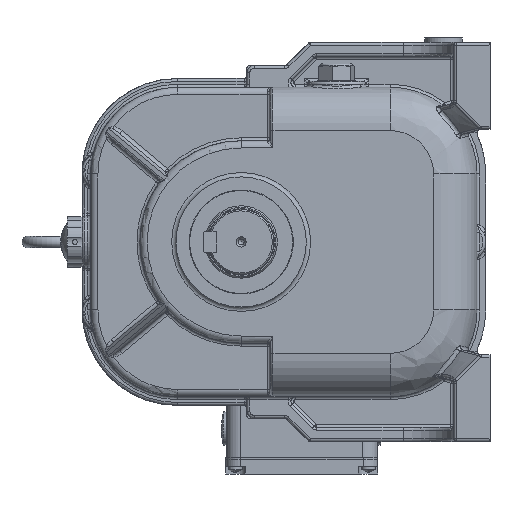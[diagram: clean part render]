
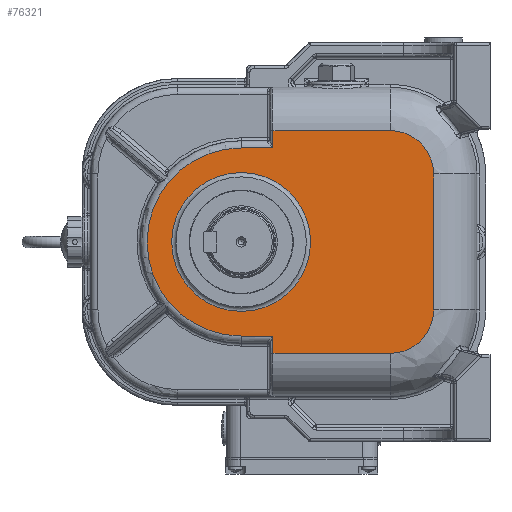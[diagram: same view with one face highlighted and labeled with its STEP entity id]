
A CAD part, left-side view. The second image highlights one B-rep face of the part: STEP entity #76321.
In plain terms, the highlighted planar face has unit normal (-1, 0, 0).
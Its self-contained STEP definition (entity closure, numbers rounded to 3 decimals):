
#4684=FACE_BOUND('',#15301,.T.);
#6238=PLANE('',#84442);
#10637=FACE_OUTER_BOUND('',#15300,.T.);
#15300=EDGE_LOOP('',(#69577,#69578,#69579,#69580,#69581,#69582,#69583,#69584,
#69585,#69586));
#15301=EDGE_LOOP('',(#69587));
#19828=CIRCLE('',#84068,30.);
#19842=CIRCLE('',#84089,30.);
#20044=CIRCLE('',#84443,65.);
#20045=CIRCLE('',#84444,48.);
#24597=LINE('',#185436,#29188);
#24660=LINE('',#186912,#29251);
#24661=LINE('',#186917,#29252);
#24662=LINE('',#186920,#29253);
#24663=LINE('',#186922,#29254);
#24664=LINE('',#186923,#29255);
#24665=LINE('',#186924,#29256);
#29188=VECTOR('',#104639,10.);
#29251=VECTOR('',#105040,10.);
#29252=VECTOR('',#105047,10.);
#29253=VECTOR('',#105050,10.);
#29254=VECTOR('',#105051,10.);
#29255=VECTOR('',#105052,10.);
#29256=VECTOR('',#105053,10.);
#35902=VERTEX_POINT('',#184275);
#35903=VERTEX_POINT('',#184277);
#35916=VERTEX_POINT('',#184519);
#35917=VERTEX_POINT('',#184521);
#36022=VERTEX_POINT('',#185434);
#36063=VERTEX_POINT('',#185818);
#36115=VERTEX_POINT('',#186497);
#36147=VERTEX_POINT('',#186916);
#36148=VERTEX_POINT('',#186918);
#36149=VERTEX_POINT('',#186921);
#36150=VERTEX_POINT('',#186925);
#46912=EDGE_CURVE('',#35902,#35903,#19828,.T.);
#46940=EDGE_CURVE('',#35916,#35917,#19842,.T.);
#47144=EDGE_CURVE('',#36022,#35902,#24597,.T.);
#47366=EDGE_CURVE('',#36115,#36022,#24660,.T.);
#47368=EDGE_CURVE('',#36115,#36147,#24661,.T.);
#47369=EDGE_CURVE('',#36148,#36147,#20044,.T.);
#47370=EDGE_CURVE('',#36148,#36063,#24662,.T.);
#47371=EDGE_CURVE('',#36149,#36063,#24663,.T.);
#47372=EDGE_CURVE('',#35917,#36149,#24664,.T.);
#47373=EDGE_CURVE('',#35903,#35916,#24665,.T.);
#47374=EDGE_CURVE('',#36150,#36150,#20045,.T.);
#69577=ORIENTED_EDGE('',*,*,#47366,.F.);
#69578=ORIENTED_EDGE('',*,*,#47368,.T.);
#69579=ORIENTED_EDGE('',*,*,#47369,.F.);
#69580=ORIENTED_EDGE('',*,*,#47370,.T.);
#69581=ORIENTED_EDGE('',*,*,#47371,.F.);
#69582=ORIENTED_EDGE('',*,*,#47372,.F.);
#69583=ORIENTED_EDGE('',*,*,#46940,.F.);
#69584=ORIENTED_EDGE('',*,*,#47373,.F.);
#69585=ORIENTED_EDGE('',*,*,#46912,.F.);
#69586=ORIENTED_EDGE('',*,*,#47144,.F.);
#69587=ORIENTED_EDGE('',*,*,#47374,.F.);
#76321=ADVANCED_FACE('',(#10637,#4684),#6238,.F.);
#84068=AXIS2_PLACEMENT_3D('',#184278,#104153,#104154);
#84089=AXIS2_PLACEMENT_3D('',#184522,#104200,#104201);
#84442=AXIS2_PLACEMENT_3D('',#186915,#105045,#105046);
#84443=AXIS2_PLACEMENT_3D('',#186919,#105048,#105049);
#84444=AXIS2_PLACEMENT_3D('',#186926,#105054,#105055);
#104153=DIRECTION('center_axis',(1.,0.,0.));
#104154=DIRECTION('ref_axis',(0.,-0.707,0.707));
#104200=DIRECTION('center_axis',(1.,0.,0.));
#104201=DIRECTION('ref_axis',(0.,-0.707,-0.707));
#104639=DIRECTION('',(0.,-1.,0.));
#105040=DIRECTION('',(0.,0.,1.));
#105045=DIRECTION('center_axis',(1.,0.,0.));
#105046=DIRECTION('ref_axis',(0.,0.,-1.));
#105047=DIRECTION('',(0.,1.,0.));
#105048=DIRECTION('center_axis',(1.,0.,0.));
#105049=DIRECTION('ref_axis',(0.,1.,0.));
#105050=DIRECTION('',(0.,-1.,0.));
#105051=DIRECTION('',(0.,0.,1.));
#105052=DIRECTION('',(0.,1.,0.));
#105053=DIRECTION('',(0.,0.,-1.));
#105054=DIRECTION('center_axis',(-1.,0.,0.));
#105055=DIRECTION('ref_axis',(0.,0.,-1.));
#184275=CARTESIAN_POINT('',(-126.,-103.,77.));
#184277=CARTESIAN_POINT('',(-126.,-133.,47.));
#184278=CARTESIAN_POINT('Origin',(-126.,-103.,47.));
#184519=CARTESIAN_POINT('',(-126.,-133.,-47.));
#184521=CARTESIAN_POINT('',(-126.,-103.,-77.));
#184522=CARTESIAN_POINT('Origin',(-126.,-103.,-47.));
#185434=CARTESIAN_POINT('',(-126.,-22.,77.));
#185436=CARTESIAN_POINT('',(-126.,-80.915,77.));
#185818=CARTESIAN_POINT('',(-126.,-22.,-65.));
#186497=CARTESIAN_POINT('',(-126.,-22.,65.));
#186912=CARTESIAN_POINT('',(-126.,-22.,53.5));
#186915=CARTESIAN_POINT('Origin',(-126.,-58.83,0.));
#186916=CARTESIAN_POINT('',(-126.,0.,65.));
#186917=CARTESIAN_POINT('',(-126.,-39.415,65.));
#186918=CARTESIAN_POINT('',(-126.,0.,-65.));
#186919=CARTESIAN_POINT('Origin',(-126.,0.,0.));
#186920=CARTESIAN_POINT('',(-126.,-29.415,-65.));
#186921=CARTESIAN_POINT('',(-126.,-22.,-77.));
#186922=CARTESIAN_POINT('',(-126.,-22.,-35.));
#186923=CARTESIAN_POINT('',(-126.,-7.415,-77.));
#186924=CARTESIAN_POINT('',(-126.,-133.,-23.5));
#186925=CARTESIAN_POINT('',(-126.,0.,48.));
#186926=CARTESIAN_POINT('Origin',(-126.,0.,0.));
